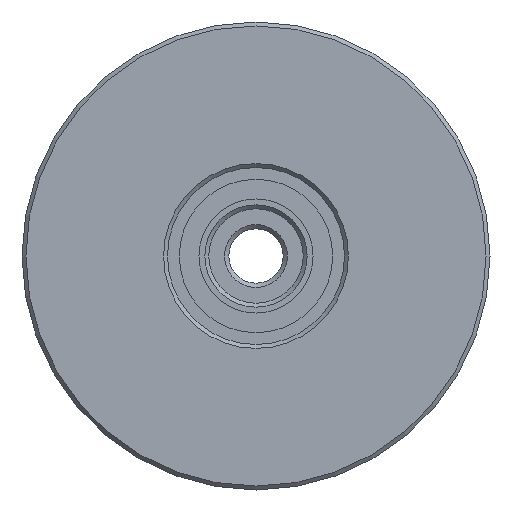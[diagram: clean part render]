
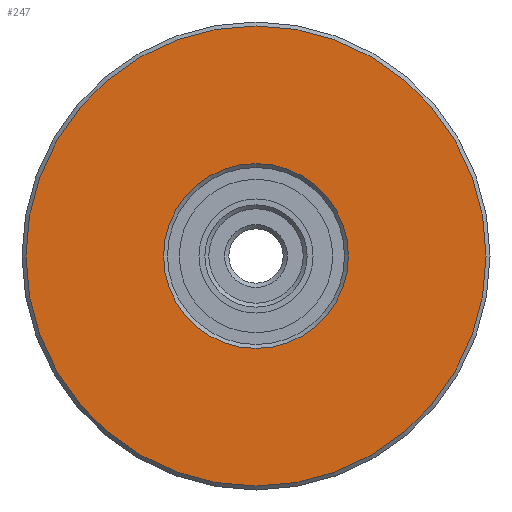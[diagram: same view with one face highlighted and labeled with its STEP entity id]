
A CAD part, left-side view. The second image highlights one B-rep face of the part: STEP entity #247.
In plain terms, the highlighted planar face has unit normal (-1, 0, 0) as drawn and (0, -1, 0) by its records, which use the part's own axes.
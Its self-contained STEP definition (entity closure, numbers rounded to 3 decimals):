
#247 = ADVANCED_FACE( '', ( #353, #354 ), #355, .T. );
#353 = FACE_OUTER_BOUND( '', #594, .T. );
#354 = FACE_BOUND( '', #595, .T. );
#355 = PLANE( '', #596 );
#594 = EDGE_LOOP( '', ( #842 ) );
#595 = EDGE_LOOP( '', ( #843 ) );
#596 = AXIS2_PLACEMENT_3D( '', #844, #845, #846 );
#842 = ORIENTED_EDGE( '', *, *, #1493, .T. );
#843 = ORIENTED_EDGE( '', *, *, #1492, .F. );
#844 = CARTESIAN_POINT( '', ( 23.5, 0., 0. ) );
#845 = DIRECTION( '', ( 0., -1., 0. ) );
#846 = DIRECTION( '', ( 0., 0., -1. ) );
#1492 = EDGE_CURVE( '', #1685, #1685, #1686, .T. );
#1493 = EDGE_CURVE( '', #1687, #1687, #1688, .T. );
#1685 = VERTEX_POINT( '', #2015 );
#1686 = CIRCLE( '', #2016, 23.5 );
#1687 = VERTEX_POINT( '', #2017 );
#1688 = CIRCLE( '', #2018, 58.5 );
#2015 = CARTESIAN_POINT( '', ( 0., 0., -23.5 ) );
#2016 = AXIS2_PLACEMENT_3D( '', #2749, #2750, #2751 );
#2017 = CARTESIAN_POINT( '', ( 0., 0., -58.5 ) );
#2018 = AXIS2_PLACEMENT_3D( '', #2752, #2753, #2754 );
#2749 = CARTESIAN_POINT( '', ( 0., 0., 0. ) );
#2750 = DIRECTION( '', ( 0., -1., 0. ) );
#2751 = DIRECTION( '', ( 0., 0., -1. ) );
#2752 = CARTESIAN_POINT( '', ( 0., 0., 0. ) );
#2753 = DIRECTION( '', ( 0., -1., 0. ) );
#2754 = DIRECTION( '', ( 0., 0., -1. ) );
